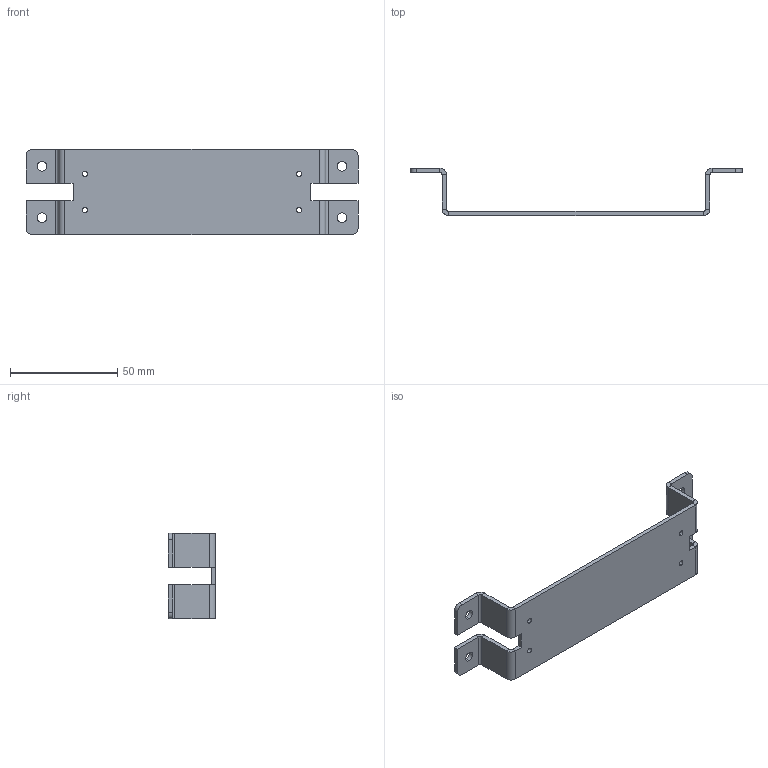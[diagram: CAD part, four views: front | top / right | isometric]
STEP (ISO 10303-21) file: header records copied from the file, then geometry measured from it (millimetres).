
FILE_DESCRIPTION (( 'STEP AP214' ), '1' );
FILE_NAME ('JYXJ-000-005-010-A µÆÌõ¹Ì¶¨°å.STEP', '2025-06-20T08:01:23', ( '' ), ( '' ), 'SwSTEP 2.0', 'SolidWorks 2020', '' );
FILE_SCHEMA (( 'AUTOMOTIVE_DESIGN' ));
Length unit declared in the file: millimetre
Products named in the file (1): JYXJ-000-005-010-A 腑沭嘐隅啣
Bounding box: 155 x 22 x 40 mm (x, y, z)
Volume: 13854.3 mm3; surface area: 15268.5 mm2
Topology: 1 solids, 1 shells, 98 faces, 224 edges, 128 vertices
Faces by surface type: plane 62, cylinder 36
Entity records: 2842 total; most frequent: DIRECTION 494, CARTESIAN_POINT 451, ORIENTED_EDGE 448, EDGE_CURVE 224, AXIS2_PLACEMENT_3D 171, VECTOR 152, LINE 152, VERTEX_POINT 128
